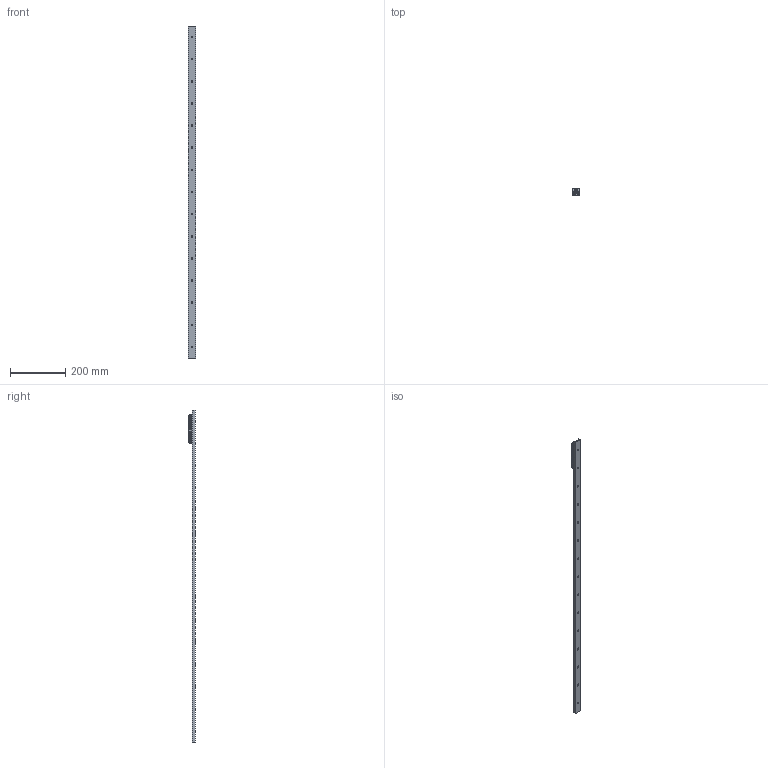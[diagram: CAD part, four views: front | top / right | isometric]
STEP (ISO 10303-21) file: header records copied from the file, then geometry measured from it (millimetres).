
FILE_DESCRIPTION( ( 'STEP AP214' ), '1' );
FILE_NAME( 'p:/temp/worker_13/temp/exporttempdir_4656_436_arHg7/format_0/TGV-01200_1_RV28G-3.stp', '2020-11-20T15:19:40', ( 'License CC BY-ND 4.0' ), ( 'CADENAS' ), ' ', 'PARTsolutions', ' ' );
FILE_SCHEMA( ( 'AUTOMOTIVE_DESIGN { 1 0 10303 214 1 1 1 1 }' ) );
Length unit declared in the file: millimetre
Products named in the file (6): TGV-01200/1/RV28G-3; _TGV28-1200-(3-1); _RV28G-3-slider; _RGNV28R; _RGAV28R; _WR28G-01
Assembly tree (7 placements, depth 2):
  TGV-01200/1/RV28G-3
    _TGV28-1200-(3-1)
    _RV28G-3-slider
    _RGNV28R  x2
    _RGAV28R
    _WR28G-01  x2
Bounding box: 28 x 24 x 1200 mm (x, y, z)
Volume: 209750.7 mm3; surface area: 133163.8 mm2
Topology: 7 solids, 7 shells, 1042 faces, 2720 edges, 1774 vertices
Faces by surface type: plane 657, cylinder 295, cone 55, bspline 26, torus 9
Full cylindrical faces by diameter (mm): 1.27 x4, 2 x2, 2.5 x6, 4 x4, 4.134 x4, 4.2 x3, 5 x3, 5.5 x3, 5.75 x15, 7 x5, 7.5 x1, 8 x6, 10.8 x3, 17 x3, 20.75 x6
Entity records: 25101 total; most frequent: CARTESIAN_POINT 3995, DIRECTION 3350, ORIENTED_EDGE 3084, EDGE_CURVE 1542, AXIS2_PLACEMENT_3D 1280, VERTEX_POINT 1074, EDGE_LOOP 881, LINE 790
